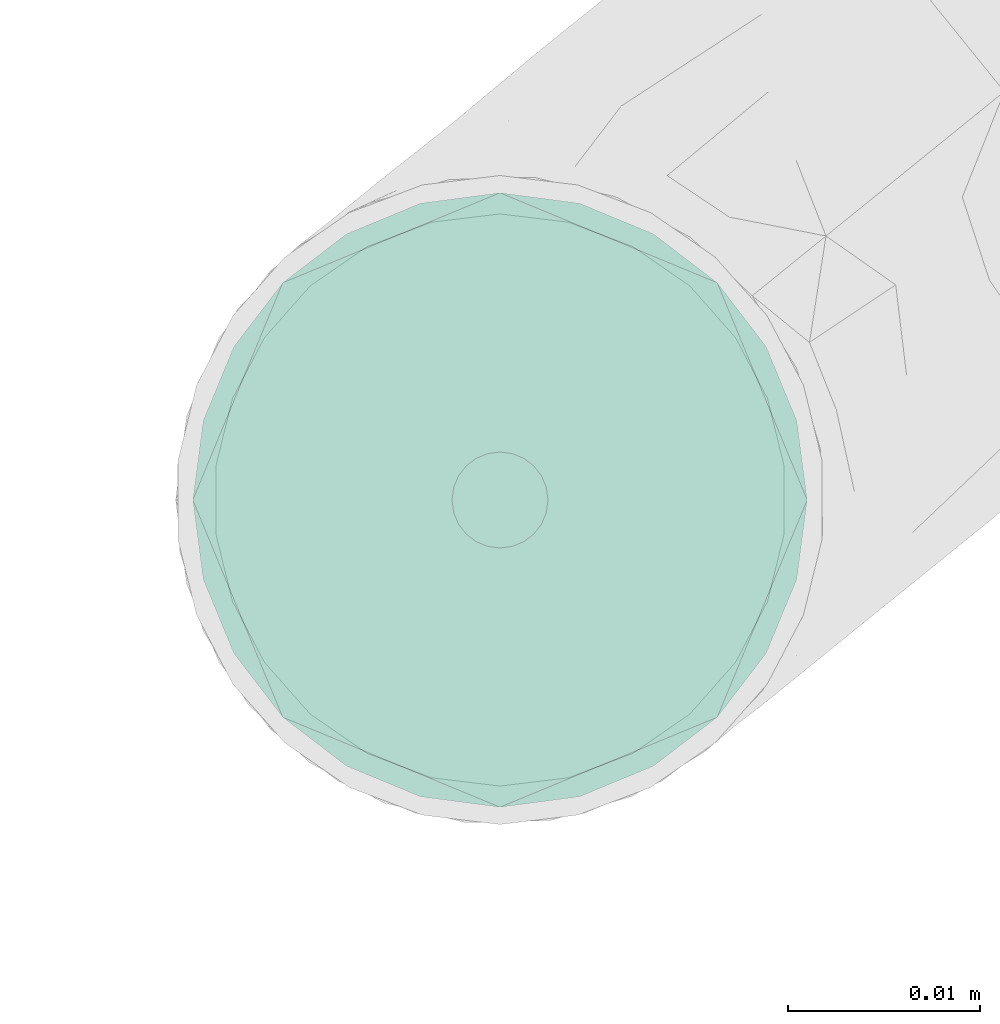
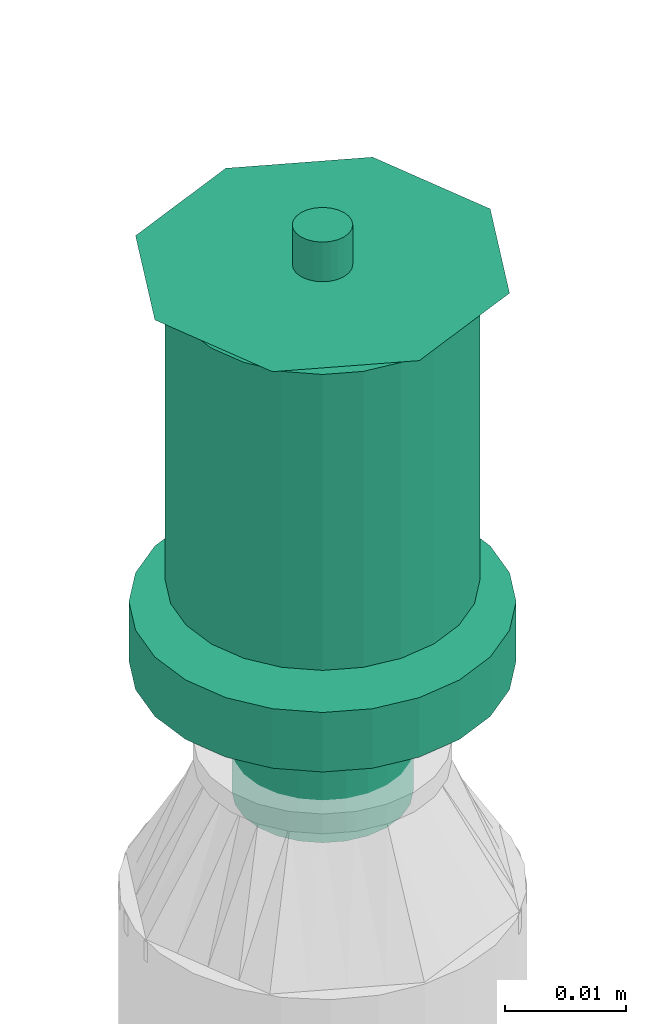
# One storey, part 83 of 94: 1 flow terminal.
"""IFC2X3 building model written with IfcOpenShell, lengths in millimetres."""

from ifc_helpers import new_model, entity, si_unit, converted_unit, derived_unit, direction, frame, origin_with_axes, place, context, subcontext, project, spatial, open_shell, surface_model, source, transform, mapped, type_object, element, save


model = new_model("IFC2X3")

# Units and contexts
model_context = context("Model", 3, precision=0.01, world=frame((0.0, 4.29681676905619e-09, 0.0)), true_north=direction((4.01073788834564e-13, 1.0)))
plan_context = context("Plan", 3, precision=0.01, world=frame((0.0, 4.29681676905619e-09, 0.0)), true_north=direction((4.01073788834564e-13, 1.0)))
body_context = subcontext(model_context, "Body", "Model", "MODEL_VIEW")
ifc_project = project(units=[converted_unit("PLANEANGLEUNIT", "DEGREE", entity("IfcPositiveLengthMeasure", 0.0174532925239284), si_unit("PLANEANGLEUNIT", "RADIAN"), dimensions=[0, 0, 0, 0, 0, 0, 0]), si_unit("AREAUNIT", "SQUARE_METRE"), si_unit("LENGTHUNIT", "METRE", prefix="MILLI"), si_unit("MASSUNIT", "GRAM", prefix="KILO"), si_unit("POWERUNIT", "WATT"), si_unit("PRESSUREUNIT", "PASCAL", prefix="KILO"), si_unit("FORCEUNIT", "NEWTON", prefix="KILO"), si_unit("ELECTRICVOLTAGEUNIT", "VOLT"), si_unit("ELECTRICCURRENTUNIT", "AMPERE"), si_unit("THERMODYNAMICTEMPERATUREUNIT", "DEGREE_CELSIUS"), si_unit("TIMEUNIT", "SECOND"), si_unit("VOLUMEUNIT", "CUBIC_METRE"), derived_unit("LINEARVELOCITYUNIT", [(si_unit("LENGTHUNIT", "METRE"), 1), (si_unit("TIMEUNIT", "SECOND"), -1)]), derived_unit("VOLUMETRICFLOWRATEUNIT", [(si_unit("VOLUMEUNIT", "CUBIC_METRE"), 1), (si_unit("TIMEUNIT", "SECOND"), -1)]), derived_unit("THERMALTRANSMITTANCEUNIT", [(si_unit("POWERUNIT", "WATT"), 1), (si_unit("THERMODYNAMICTEMPERATUREUNIT", "KELVIN"), -1), (si_unit("AREAUNIT", "SQUARE_METRE"), -1)]), derived_unit("SOUNDPRESSUREUNIT", [(si_unit("PRESSUREUNIT", "PASCAL"), 1)])], contexts=[model_context, plan_context])

# Site, building, storey
site_placement = place(None, frame((0.0, -4.29681676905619e-09, 0.0), z_axis=(0.0, 0.0, 1.0), x_axis=(1.0, 0.0, 0.0)))
site = spatial("IfcSite", under=ifc_project, at=site_placement, CompositionType="ELEMENT")
building_placement = place(site_placement, frame((0.0, 4.29681676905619e-09, 0.0), z_axis=(0.0, 0.0, 1.0), x_axis=(1.0, 0.0, 0.0)))
building = spatial("IfcBuilding", under=site, at=building_placement, Name="mc-building", CompositionType="ELEMENT")
storey_placement = place(building_placement, frame((0.0, 0.0, 210900.0), z_axis=(0.0, 0.0, 1.0), x_axis=(1.0, 0.0, 0.0)))
storey = spatial("IfcBuildingStorey", under=building, at=storey_placement, Name="Nivå F", CompositionType="ELEMENT", Elevation=210900.0)

# Flow terminal
fire_suppression_terminal_type = type_object("IfcFireSuppressionTerminalType", Name="68DGR-STD-STÅENDE", PredefinedType="NOTDEFINED")
shared_shape = source(origin_with_axes(), body_context, "Body", "SurfaceModel", [
    surface_model("IfcShellBasedSurfaceModel", [(3.36465, -12.55704, 51.0), (6.5, -11.25833, 51.0), (9.19239, -9.19239, 51.0), (12.55704, -3.36465, 51.0), (-11.25833, -6.5, 51.0), (11.25833, -6.5, 51.0), (-13.0, 0.0, 51.0), (0.0, -13.0, 51.0), (-6.5, -11.25833, 51.0), (-3.36465, -12.55704, 51.0), (-9.19239, -9.19239, 51.0), (-12.55704, -3.36465, 51.0), (13.0, 0.0, 51.0), (12.55704, 3.36465, 51.0), (11.25833, 6.5, 51.0), (9.19239, 9.19239, 51.0), (6.5, 11.25833, 51.0), (3.36465, 12.55704, 51.0), (0.0, 13.0, 51.0), (-3.36465, 12.55704, 51.0), (-12.55704, 3.36465, 51.0), (-9.19239, 9.19239, 51.0), (-11.25833, 6.5, 51.0), (-6.5, 11.25833, 51.0), (0.0, 13.0, 21.14766), (3.36465, 12.55704, 21.14766), (6.5, 11.25833, 21.14766), (-3.36465, 12.55704, 21.14766), (9.19239, 9.19239, 21.14766), (11.25833, 6.5, 21.14766), (12.55704, 3.36465, 21.14766), (-12.55704, 3.36465, 21.14766), (-11.25833, -6.5, 21.14766), (-9.19239, 9.19239, 21.14766), (-6.5, 11.25833, 21.14766), (-11.25833, 6.5, 21.14766), (-13.0, 0.0, 21.14766), (12.55704, -3.36465, 21.14766), (9.19239, -9.19239, 21.14766), (11.25833, -6.5, 21.14766), (6.5, -11.25833, 21.14766), (3.36465, -12.55704, 21.14766), (-6.5, -11.25833, 21.14766), (-9.19239, -9.19239, 21.14766), (-12.55704, -3.36465, 21.14766), (0.0, -13.0, 21.14766), (-3.36465, -12.55704, 21.14766), (13.0, 0.0, 21.14766), (7.24444, -1.94114, 0.1), (1.94114, -7.24444, 0.1), (3.75, -6.49519, 0.1), (5.3033, -5.3033, 0.1), (-5.3033, -5.3033, 0.1), (6.49519, -3.75, 0.1), (5.3033, 5.3033, 0.1), (0.0, -7.5, 0.1), (-3.75, -6.49519, 0.1), (-1.94114, -7.24444, 0.1), (-7.24444, -1.94114, 0.1), (-6.49519, -3.75, 0.1), (-7.24444, 1.94114, 0.1), (7.5, 0.0, 0.1), (6.49519, 3.75, 0.1), (-6.49519, 3.75, 0.1), (1.94114, 7.24444, 0.1), (0.0, 7.5, 0.1), (3.75, 6.49519, 0.1), (-7.5, 0.0, 0.1), (-5.3033, 5.3033, 0.1), (-1.94114, 7.24444, 0.1), (-3.75, 6.49519, 0.1), (7.24444, 1.94114, 0.1), (1.94114, 7.24444, -0.1), (-6.49519, 3.75, -0.1), (0.0, 7.5, -0.1), (5.3033, 5.3033, -0.1), (3.75, 6.49519, -0.1), (6.49519, 3.75, -0.1), (7.24444, 1.94114, -0.1), (-1.94114, 7.24444, -0.1), (-5.3033, 5.3033, -0.1), (-3.75, 6.49519, -0.1), (-7.24444, 1.94114, -0.1), (-7.24444, -1.94114, -0.1), (-7.5, 0.0, -0.1), (7.5, 0.0, -0.1), (7.24444, -1.94114, -0.1), (-5.3033, -5.3033, -0.1), (1.94114, -7.24444, -0.1), (6.49519, -3.75, -0.1), (5.3033, -5.3033, -0.1), (3.75, -6.49519, -0.1), (-6.49519, -3.75, -0.1), (-3.75, -6.49519, -0.1), (0.0, -7.5, -0.1), (-1.94114, -7.24444, -0.1), (0.0, -2.5, 51.0), (-2.5, 0.0, 51.0), (0.0, 2.5, 51.0), (2.5, 0.0, 51.0), (0.0, -16.0, 53.0), (11.31371, -11.31371, 53.0), (-11.31371, -11.31371, 53.0), (-16.0, 0.0, 53.0), (16.0, 0.0, 53.0), (11.31371, 11.31371, 53.0), (0.0, 16.0, 53.0), (-11.31371, 11.31371, 53.0), (1.25, -2.16506, 57.0), (0.0, -2.5, 57.0), (0.64705, -2.41481, 57.0), (2.41481, -0.64705, 57.0), (1.76777, -1.76777, 57.0), (-2.41481, -0.64705, 57.0), (-2.5, 0.0, 57.0), (2.16506, -1.25, 57.0), (-1.25, -2.16506, 57.0), (-0.64705, -2.41481, 57.0), (-1.76777, -1.76777, 57.0), (-2.16506, -1.25, 57.0), (2.5, 0.0, 57.0), (2.41481, 0.64705, 57.0), (2.16506, 1.25, 57.0), (1.76777, 1.76777, 57.0), (0.64705, 2.41481, 57.0), (1.25, 2.16506, 57.0), (-1.76777, 1.76777, 57.0), (0.0, 2.5, 57.0), (-2.16506, 1.25, 57.0), (-2.41481, 0.64705, 57.0), (-0.64705, 2.41481, 57.0), (-1.25, 2.16506, 57.0), (1.25, 2.16506, 51.0), (1.76777, 1.76777, 51.0), (1.15, 1.99186, 51.0), (0.59528, 2.22163, 51.0), (0.64705, 2.41481, 51.0), (0.0, 2.3, 51.0), (1.62635, 1.62635, 51.0), (2.41481, 0.64705, 51.0), (2.3, 0.0, 51.0), (2.22163, 0.59528, 51.0), (2.16506, 1.25, 51.0), (1.99186, 1.15, 51.0), (-0.59528, 2.22163, 51.0), (-0.64705, 2.41481, 51.0), (-1.15, 1.99186, 51.0), (-1.76777, 1.76777, 51.0), (-1.25, 2.16506, 51.0), (-1.62635, 1.62635, 51.0), (-1.99186, 1.15, 51.0), (-2.16506, 1.25, 51.0), (-2.22163, 0.59528, 51.0), (-2.41481, 0.64705, 51.0), (-2.3, 0.0, 51.0), (2.41481, -0.64705, 51.0), (2.22163, -0.59528, 51.0), (1.99186, -1.15, 51.0), (2.16506, -1.25, 51.0), (1.62635, -1.62635, 51.0), (1.76777, -1.76777, 51.0), (1.25, -2.16506, 51.0), (1.15, -1.99186, 51.0), (0.59528, -2.22163, 51.0), (0.64705, -2.41481, 51.0), (0.0, -2.3, 51.0), (-2.16506, -1.25, 51.0), (-1.99186, -1.15, 51.0), (-1.76777, -1.76777, 51.0), (-1.62635, -1.62635, 51.0), (-2.41481, -0.64705, 51.0), (-2.22163, -0.59528, 51.0), (-0.59528, -2.22163, 51.0), (-0.64705, -2.41481, 51.0), (-1.15, -1.99186, 51.0), (-1.25, -2.16506, 51.0), (1.62635, -1.62635, 56.8), (1.15, -1.99186, 56.8), (0.59528, -2.22163, 56.8), (0.0, -2.3, 56.8), (2.22163, 0.59528, 56.8), (1.99186, -1.15, 56.8), (2.22163, -0.59528, 56.8), (-0.59528, -2.22163, 56.8), (-1.15, -1.99186, 56.8), (-1.62635, -1.62635, 56.8), (-1.99186, -1.15, 56.8), (-2.22163, -0.59528, 56.8), (-1.99186, 1.15, 56.8), (2.3, 0.0, 56.8), (1.62635, 1.62635, 56.8), (1.99186, 1.15, 56.8), (1.15, 1.99186, 56.8), (0.0, 2.3, 56.8), (0.59528, 2.22163, 56.8), (-2.22163, 0.59528, 56.8), (-2.3, 0.0, 56.8), (-1.15, 1.99186, 56.8), (-0.59528, 2.22163, 56.8), (-1.62635, 1.62635, 56.8), (4.1411, -15.45481, 19.0), (8.0, -13.85641, 19.0), (11.31371, -11.31371, 19.0), (-8.0, -13.85641, 19.0), (15.45481, -4.1411, 19.0), (16.0, 0.0, 19.0), (13.85641, -8.0, 19.0), (0.0, -16.0, 19.0), (-4.1411, -15.45481, 19.0), (-13.85641, -8.0, 19.0), (-11.31371, -11.31371, 19.0), (-15.45481, -4.1411, 19.0), (15.45481, 4.1411, 19.0), (13.85641, 8.0, 19.0), (11.31371, 11.31371, 19.0), (-4.1411, 15.45481, 19.0), (8.0, 13.85641, 19.0), (4.1411, 15.45481, 19.0), (0.0, 16.0, 19.0), (-13.85641, 8.0, 19.0), (-15.45481, 4.1411, 19.0), (-16.0, 0.0, 19.0), (-11.31371, 11.31371, 19.0), (-8.0, 13.85641, 19.0), (0.0, 16.0, 13.0), (4.1411, 15.45481, 13.0), (8.0, 13.85641, 13.0), (-4.1411, 15.45481, 13.0), (11.31371, 11.31371, 13.0), (13.85641, 8.0, 13.0), (15.45481, 4.1411, 13.0), (-15.45481, -4.1411, 13.0), (-11.31371, 11.31371, 13.0), (-8.0, 13.85641, 13.0), (-13.85641, 8.0, 13.0), (-15.45481, 4.1411, 13.0), (-16.0, 0.0, 13.0), (4.1411, -15.45481, 13.0), (16.0, 0.0, 13.0), (15.45481, -4.1411, 13.0), (13.85641, -8.0, 13.0), (11.31371, -11.31371, 13.0), (8.0, -13.85641, 13.0), (-8.0, -13.85641, 13.0), (-13.85641, -8.0, 13.0), (-11.31371, -11.31371, 13.0), (0.0, -16.0, 13.0), (-4.1411, -15.45481, 13.0), (7.24444, -1.94114, 13.0), (1.94114, -7.24444, 13.0), (3.75, -6.49519, 13.0), (5.3033, -5.3033, 13.0), (-5.3033, -5.3033, 13.0), (6.49519, -3.75, 13.0), (5.3033, 5.3033, 13.0), (0.0, -7.5, 13.0), (-3.75, -6.49519, 13.0), (-1.94114, -7.24444, 13.0), (-7.24444, -1.94114, 13.0), (-6.49519, -3.75, 13.0), (-7.24444, 1.94114, 13.0), (7.5, 0.0, 13.0), (6.49519, 3.75, 13.0), (-6.49519, 3.75, 13.0), (1.94114, 7.24444, 13.0), (0.0, 7.5, 13.0), (3.75, 6.49519, 13.0), (-7.5, 0.0, 13.0), (-5.3033, 5.3033, 13.0), (-1.94114, 7.24444, 13.0), (-3.75, 6.49519, 13.0), (7.24444, 1.94114, 13.0), (3.75, 6.49519, 0.0), (5.3033, 5.3033, 0.0), (3.65, 6.32199, 0.0), (1.88938, 7.05126, 0.0), (0.0, 7.3, 0.0), (1.94114, 7.24444, 0.0), (0.0, 7.5, 0.0), (5.16188, 5.16188, 0.0), (7.24444, 1.94114, 0.0), (7.3, 0.0, 0.0), (7.05126, 1.88938, 0.0), (7.5, 0.0, 0.0), (6.49519, 3.75, 0.0), (6.32199, 3.65, 0.0), (-1.88938, 7.05126, 0.0), (-1.94114, 7.24444, 0.0), (-3.65, 6.32199, 0.0), (-5.3033, 5.3033, 0.0), (-3.75, 6.49519, 0.0), (-5.16188, 5.16188, 0.0), (-6.32199, 3.65, 0.0), (-6.49519, 3.75, 0.0), (-7.05126, 1.88938, 0.0), (-7.24444, 1.94114, 0.0), (-7.3, 0.0, 0.0), (-7.5, 0.0, 0.0), (7.24444, -1.94114, 0.0), (7.05126, -1.88938, 0.0), (6.32199, -3.65, 0.0), (6.49519, -3.75, 0.0), (5.16188, -5.16188, 0.0), (5.3033, -5.3033, 0.0), (3.75, -6.49519, 0.0), (3.65, -6.32199, 0.0), (1.88938, -7.05126, 0.0), (1.94114, -7.24444, 0.0), (0.0, -7.3, 0.0), (0.0, -7.5, 0.0), (-6.49519, -3.75, 0.0), (-6.32199, -3.65, 0.0), (-5.3033, -5.3033, 0.0), (-5.16188, -5.16188, 0.0), (-7.24444, -1.94114, 0.0), (-7.05126, -1.88938, 0.0), (-1.88938, -7.05126, 0.0), (-1.94114, -7.24444, 0.0), (-3.65, -6.32199, 0.0), (-3.75, -6.49519, 0.0), (1.88938, -7.05126, 12.8), (0.0, -7.3, 12.8), (3.65, -6.32199, 12.8), (5.16188, -5.16188, 12.8), (6.32199, -3.65, 12.8), (7.05126, 1.88938, 12.8), (7.05126, -1.88938, 12.8), (-5.16188, -5.16188, 12.8), (-1.88938, -7.05126, 12.8), (-3.65, -6.32199, 12.8), (-6.32199, -3.65, 12.8), (-7.05126, -1.88938, 12.8), (0.0, 7.3, 12.8), (7.3, 0.0, 12.8), (6.32199, 3.65, 12.8), (5.16188, 5.16188, 12.8), (3.65, 6.32199, 12.8), (1.88938, 7.05126, 12.8), (-6.32199, 3.65, 12.8), (-7.05126, 1.88938, 12.8), (-7.3, 0.0, 12.8), (-3.65, 6.32199, 12.8), (-1.88938, 7.05126, 12.8), (-5.16188, 5.16188, 12.8)], [open_shell([[[0, 1, 2]], [[0, 2, 3]], [[0, 3, 4]], [[3, 2, 5]], [[6, 4, 3]], [[7, 8, 9]], [[7, 0, 8]], [[8, 4, 10]], [[0, 4, 8]], [[4, 6, 11]], [[6, 3, 12]], [[13, 14, 15]], [[6, 13, 15]], [[16, 17, 18]], [[15, 16, 19]], [[18, 19, 16]], [[20, 21, 22]], [[20, 6, 15]], [[21, 19, 23]], [[19, 21, 20]], [[15, 19, 20]], [[13, 6, 12]], [[24, 25, 26]], [[27, 24, 26]], [[28, 29, 30]], [[26, 28, 31]], [[28, 32, 31]], [[27, 33, 34]], [[33, 27, 31]], [[33, 31, 35]], [[27, 26, 31]], [[31, 32, 36]], [[32, 28, 30]], [[32, 30, 37]], [[38, 37, 39]], [[38, 40, 41]], [[38, 41, 37]], [[32, 37, 41]], [[32, 42, 43]], [[44, 36, 32]], [[42, 45, 46]], [[42, 32, 41]], [[45, 42, 41]], [[30, 47, 37]], [[4, 32, 43]], [[8, 42, 46]], [[43, 42, 10]], [[9, 46, 45]], [[36, 11, 6]], [[11, 36, 44]], [[11, 44, 4]], [[44, 32, 4]], [[43, 10, 4]], [[8, 10, 42]], [[46, 9, 8]], [[45, 7, 9]], [[0, 41, 40]], [[38, 1, 40]], [[5, 39, 37]], [[38, 39, 2]], [[3, 37, 47]], [[41, 0, 7]], [[40, 1, 0]], [[38, 2, 1]], [[39, 5, 2]], [[3, 5, 37]], [[47, 12, 3]], [[41, 7, 45]], [[30, 13, 47]], [[29, 14, 30]], [[25, 24, 17]], [[15, 29, 28]], [[30, 14, 13]], [[13, 12, 47]], [[16, 26, 17]], [[16, 15, 28]], [[26, 25, 17]], [[15, 14, 29]], [[28, 26, 16]], [[24, 18, 17]], [[19, 27, 34]], [[33, 23, 34]], [[22, 35, 31]], [[33, 35, 21]], [[20, 31, 36]], [[27, 19, 18]], [[34, 23, 19]], [[33, 21, 23]], [[35, 22, 21]], [[20, 22, 31]], [[36, 6, 20]], [[27, 18, 24]], [[48, 49, 50]], [[48, 50, 51]], [[49, 48, 52]], [[48, 51, 53]], [[54, 52, 48]], [[55, 56, 57]], [[56, 55, 52]], [[52, 58, 59]], [[52, 55, 49]], [[52, 60, 58]], [[54, 48, 61]], [[62, 54, 61]], [[54, 63, 52]], [[64, 65, 54]], [[64, 54, 66]], [[63, 54, 65]], [[63, 60, 52]], [[67, 58, 60]], [[68, 69, 70]], [[69, 68, 63]], [[69, 63, 65]], [[71, 62, 61]], [[72, 73, 74]], [[75, 72, 76]], [[75, 77, 78]], [[72, 75, 73]], [[78, 73, 75]], [[79, 80, 81]], [[80, 79, 73]], [[74, 73, 79]], [[78, 82, 73]], [[82, 83, 84]], [[82, 78, 85]], [[86, 87, 85]], [[88, 86, 89]], [[90, 91, 88]], [[90, 88, 89]], [[87, 86, 88]], [[83, 87, 92]], [[83, 85, 87]], [[93, 94, 95]], [[94, 93, 87]], [[88, 94, 87]], [[85, 83, 82]], [[83, 58, 84]], [[92, 59, 83]], [[56, 87, 93]], [[92, 87, 52]], [[57, 93, 95]], [[83, 59, 58]], [[58, 67, 84]], [[57, 56, 93]], [[52, 87, 56]], [[52, 59, 92]], [[55, 57, 95]], [[95, 94, 55]], [[88, 49, 94]], [[91, 50, 88]], [[53, 90, 89]], [[91, 90, 51]], [[48, 89, 86]], [[91, 51, 50]], [[50, 49, 88]], [[61, 48, 86]], [[53, 89, 48]], [[53, 51, 90]], [[85, 61, 86]], [[94, 49, 55]], [[78, 71, 85]], [[77, 62, 78]], [[66, 75, 76]], [[77, 75, 54]], [[64, 76, 72]], [[78, 62, 71]], [[71, 61, 85]], [[64, 66, 76]], [[54, 75, 66]], [[54, 62, 77]], [[65, 64, 72]], [[72, 74, 65]], [[79, 69, 74]], [[81, 70, 79]], [[63, 80, 73]], [[81, 80, 68]], [[60, 73, 82]], [[81, 68, 70]], [[70, 69, 79]], [[67, 60, 82]], [[63, 73, 60]], [[63, 68, 80]], [[84, 67, 82]], [[74, 69, 65]], [[96, 97, 98]], [[98, 99, 96]], [[100, 101, 102]], [[103, 102, 101]], [[101, 104, 103]], [[104, 105, 106]], [[107, 103, 106]], [[106, 103, 104]], [[99, 98, 105]], [[105, 104, 99]], [[98, 106, 105]], [[98, 107, 106]], [[107, 98, 97]], [[103, 107, 97]], [[97, 96, 102]], [[102, 103, 97]], [[96, 100, 102]], [[96, 101, 100]], [[101, 96, 99]], [[104, 101, 99]], [[108, 109, 110]], [[111, 108, 112]], [[113, 108, 114]], [[111, 112, 115]], [[108, 111, 114]], [[109, 116, 117]], [[116, 109, 118]], [[118, 113, 119]], [[118, 109, 108]], [[108, 113, 118]], [[111, 120, 114]], [[121, 122, 123]], [[114, 121, 123]], [[114, 123, 124]], [[124, 123, 125]], [[126, 124, 127]], [[124, 128, 129]], [[129, 114, 124]], [[126, 130, 131]], [[128, 124, 126]], [[130, 126, 127]], [[121, 114, 120]], [[132, 133, 134]], [[132, 134, 135]], [[136, 135, 137]], [[135, 136, 132]], [[136, 137, 98]], [[134, 133, 138]], [[139, 140, 141]], [[140, 139, 99]], [[139, 141, 142]], [[138, 142, 143]], [[142, 138, 133]], [[143, 142, 141]], [[98, 144, 145]], [[98, 137, 144]], [[145, 144, 146]], [[147, 148, 149]], [[146, 148, 145]], [[149, 148, 146]], [[150, 151, 147]], [[151, 150, 152]], [[150, 147, 149]], [[153, 152, 154]], [[152, 153, 151]], [[153, 154, 97]], [[99, 155, 156]], [[156, 155, 157]], [[157, 158, 159]], [[158, 157, 155]], [[159, 158, 160]], [[160, 161, 162]], [[162, 161, 163]], [[163, 164, 165]], [[164, 163, 161]], [[165, 164, 96]], [[162, 159, 160]], [[166, 167, 168]], [[168, 167, 169]], [[167, 166, 170]], [[97, 171, 170]], [[170, 171, 167]], [[97, 154, 171]], [[172, 96, 173]], [[172, 173, 174]], [[169, 175, 168]], [[175, 169, 174]], [[175, 174, 173]], [[165, 96, 172]], [[156, 140, 99]], [[170, 113, 97]], [[166, 119, 170]], [[116, 168, 175]], [[166, 168, 118]], [[117, 175, 173]], [[170, 119, 113]], [[113, 114, 97]], [[117, 116, 175]], [[118, 168, 116]], [[118, 119, 166]], [[109, 117, 173]], [[173, 96, 109]], [[164, 110, 96]], [[161, 108, 164]], [[115, 160, 158]], [[161, 160, 112]], [[111, 158, 155]], [[161, 112, 108]], [[108, 110, 164]], [[120, 111, 155]], [[115, 158, 111]], [[115, 112, 160]], [[99, 120, 155]], [[96, 110, 109]], [[139, 121, 99]], [[142, 122, 139]], [[125, 133, 132]], [[142, 133, 123]], [[124, 132, 136]], [[139, 122, 121]], [[121, 120, 99]], [[124, 125, 132]], [[123, 133, 125]], [[123, 122, 142]], [[127, 124, 136]], [[136, 98, 127]], [[145, 130, 98]], [[148, 131, 145]], [[128, 147, 151]], [[148, 147, 126]], [[129, 151, 153]], [[148, 126, 131]], [[131, 130, 145]], [[114, 129, 153]], [[128, 151, 129]], [[128, 126, 147]], [[97, 114, 153]], [[98, 130, 127]], [[176, 177, 178]], [[176, 178, 179]], [[180, 176, 179]], [[181, 176, 182]], [[180, 182, 176]], [[183, 184, 179]], [[185, 179, 184]], [[186, 187, 185]], [[185, 187, 188]], [[179, 185, 188]], [[189, 182, 180]], [[190, 191, 180]], [[192, 190, 180]], [[193, 194, 192]], [[180, 193, 192]], [[188, 193, 180]], [[195, 188, 196]], [[196, 188, 187]], [[197, 198, 199]], [[188, 199, 198]], [[188, 198, 193]], [[180, 179, 188]], [[154, 187, 171]], [[171, 186, 167]], [[174, 169, 184]], [[185, 169, 167]], [[172, 174, 183]], [[187, 186, 171]], [[154, 196, 187]], [[174, 184, 183]], [[184, 169, 185]], [[167, 186, 185]], [[172, 183, 179]], [[179, 165, 172]], [[165, 178, 163]], [[163, 177, 162]], [[157, 159, 181]], [[176, 159, 162]], [[156, 157, 182]], [[177, 176, 162]], [[163, 178, 177]], [[156, 182, 189]], [[182, 157, 181]], [[159, 176, 181]], [[156, 189, 140]], [[179, 178, 165]], [[140, 180, 141]], [[141, 191, 143]], [[134, 138, 192]], [[190, 138, 143]], [[135, 134, 194]], [[180, 191, 141]], [[140, 189, 180]], [[134, 192, 194]], [[192, 138, 190]], [[143, 191, 190]], [[135, 194, 193]], [[193, 137, 135]], [[137, 198, 144]], [[144, 197, 146]], [[150, 149, 188]], [[199, 149, 146]], [[152, 150, 195]], [[197, 199, 146]], [[144, 198, 197]], [[152, 195, 196]], [[195, 150, 188]], [[149, 199, 188]], [[152, 196, 154]], [[193, 198, 137]], [[200, 201, 202]], [[203, 200, 202]], [[204, 205, 202]], [[204, 202, 206]], [[203, 202, 205]], [[207, 203, 208]], [[207, 200, 203]], [[203, 209, 210]], [[209, 203, 211]], [[205, 211, 203]], [[205, 212, 211]], [[212, 213, 214]], [[215, 212, 214]], [[216, 217, 218]], [[214, 216, 215]], [[218, 215, 216]], [[211, 219, 220]], [[221, 211, 220]], [[222, 215, 223]], [[215, 222, 219]], [[219, 211, 215]], [[211, 212, 215]], [[224, 225, 226]], [[227, 224, 226]], [[228, 229, 230]], [[227, 226, 228]], [[227, 228, 231]], [[227, 232, 233]], [[232, 227, 234]], [[234, 231, 235]], [[231, 234, 227]], [[235, 231, 236]], [[228, 230, 231]], [[237, 238, 239]], [[237, 239, 240]], [[241, 242, 237]], [[241, 237, 240]], [[238, 237, 243]], [[244, 243, 245]], [[243, 244, 231]], [[243, 246, 247]], [[243, 231, 238]], [[237, 246, 243]], [[238, 231, 230]], [[231, 211, 236]], [[244, 209, 231]], [[203, 245, 243]], [[244, 245, 210]], [[208, 243, 247]], [[231, 209, 211]], [[211, 221, 236]], [[208, 203, 243]], [[210, 245, 203]], [[210, 209, 244]], [[207, 208, 247]], [[247, 246, 207]], [[237, 200, 246]], [[242, 201, 237]], [[206, 241, 240]], [[242, 241, 202]], [[204, 240, 239]], [[242, 202, 201]], [[201, 200, 237]], [[205, 204, 239]], [[206, 240, 204]], [[206, 202, 241]], [[238, 205, 239]], [[246, 200, 207]], [[230, 212, 238]], [[229, 213, 230]], [[216, 228, 226]], [[229, 228, 214]], [[217, 226, 225]], [[230, 213, 212]], [[212, 205, 238]], [[217, 216, 226]], [[214, 228, 216]], [[214, 213, 229]], [[218, 217, 225]], [[225, 224, 218]], [[227, 215, 224]], [[233, 223, 227]], [[219, 232, 234]], [[233, 232, 222]], [[220, 234, 235]], [[233, 222, 223]], [[223, 215, 227]], [[221, 220, 235]], [[219, 234, 220]], [[219, 222, 232]], [[236, 221, 235]], [[224, 215, 218]], [[248, 249, 250]], [[248, 250, 251]], [[249, 248, 252]], [[248, 251, 253]], [[254, 252, 248]], [[255, 256, 257]], [[256, 255, 252]], [[252, 258, 259]], [[252, 255, 249]], [[252, 260, 258]], [[254, 248, 261]], [[262, 254, 261]], [[254, 263, 252]], [[264, 265, 254]], [[264, 254, 266]], [[263, 254, 265]], [[263, 260, 252]], [[267, 258, 260]], [[268, 269, 270]], [[269, 268, 263]], [[269, 263, 265]], [[271, 262, 261]], [[272, 273, 274]], [[272, 274, 275]], [[276, 277, 275]], [[277, 276, 278]], [[275, 277, 272]], [[274, 273, 279]], [[280, 281, 282]], [[281, 280, 283]], [[280, 282, 284]], [[279, 284, 285]], [[284, 279, 273]], [[285, 284, 282]], [[278, 286, 287]], [[287, 286, 288]], [[289, 290, 291]], [[288, 290, 287]], [[288, 291, 290]], [[278, 276, 286]], [[292, 293, 289]], [[293, 292, 294]], [[292, 289, 291]], [[295, 294, 296]], [[294, 295, 293]], [[295, 296, 297]], [[283, 298, 299]], [[299, 298, 300]], [[300, 301, 302]], [[301, 300, 298]], [[302, 301, 303]], [[303, 304, 305]], [[305, 304, 306]], [[306, 307, 308]], [[307, 306, 304]], [[308, 307, 309]], [[305, 302, 303]], [[310, 311, 312]], [[312, 311, 313]], [[311, 310, 314]], [[297, 315, 314]], [[314, 315, 311]], [[297, 296, 315]], [[316, 309, 317]], [[316, 317, 318]], [[313, 319, 312]], [[313, 318, 319]], [[319, 318, 317]], [[308, 309, 316]], [[299, 281, 283]], [[314, 258, 297]], [[310, 259, 314]], [[256, 312, 319]], [[310, 312, 252]], [[257, 319, 317]], [[314, 259, 258]], [[258, 267, 297]], [[257, 256, 319]], [[252, 312, 256]], [[252, 259, 310]], [[255, 257, 317]], [[317, 309, 255]], [[307, 249, 309]], [[304, 250, 307]], [[253, 303, 301]], [[304, 303, 251]], [[248, 301, 298]], [[304, 251, 250]], [[250, 249, 307]], [[261, 248, 298]], [[253, 301, 248]], [[253, 251, 303]], [[283, 261, 298]], [[309, 249, 255]], [[280, 271, 283]], [[284, 262, 280]], [[266, 273, 272]], [[284, 273, 254]], [[264, 272, 277]], [[280, 262, 271]], [[271, 261, 283]], [[264, 266, 272]], [[254, 273, 266]], [[254, 262, 284]], [[265, 264, 277]], [[277, 278, 265]], [[287, 269, 278]], [[290, 270, 287]], [[263, 289, 293]], [[290, 289, 268]], [[260, 293, 295]], [[290, 268, 270]], [[270, 269, 287]], [[267, 260, 295]], [[263, 293, 260]], [[263, 268, 289]], [[297, 267, 295]], [[278, 269, 265]], [[320, 321, 322]], [[323, 322, 324]], [[325, 326, 322]], [[324, 322, 326]], [[322, 327, 325]], [[328, 329, 321]], [[327, 321, 329]], [[330, 331, 327]], [[322, 321, 327]], [[331, 332, 327]], [[326, 325, 333]], [[334, 325, 332]], [[335, 334, 336]], [[332, 337, 336]], [[334, 332, 336]], [[331, 338, 332]], [[339, 338, 340]], [[340, 338, 331]], [[341, 342, 343]], [[332, 338, 343]], [[332, 343, 342]], [[332, 325, 327]], [[296, 331, 315]], [[315, 330, 311]], [[318, 313, 329]], [[327, 313, 311]], [[316, 318, 328]], [[331, 330, 315]], [[296, 340, 331]], [[318, 329, 328]], [[329, 313, 327]], [[311, 330, 327]], [[316, 328, 321]], [[321, 308, 316]], [[308, 320, 306]], [[306, 322, 305]], [[300, 302, 324]], [[323, 302, 305]], [[299, 300, 326]], [[322, 323, 305]], [[306, 320, 322]], [[299, 326, 333]], [[326, 300, 324]], [[302, 323, 324]], [[299, 333, 281]], [[321, 320, 308]], [[281, 325, 282]], [[282, 334, 285]], [[274, 279, 336]], [[335, 279, 285]], [[275, 274, 337]], [[325, 334, 282]], [[281, 333, 325]], [[274, 336, 337]], [[336, 279, 335]], [[285, 334, 335]], [[275, 337, 332]], [[332, 276, 275]], [[276, 342, 286]], [[286, 341, 288]], [[292, 291, 338]], [[343, 291, 288]], [[294, 292, 339]], [[341, 343, 288]], [[286, 342, 341]], [[294, 339, 340]], [[339, 292, 338]], [[291, 343, 338]], [[294, 340, 296]], [[332, 342, 276]]])]),
])
flow_terminal_placement = place(storey_placement, frame((724295.62051, 443560.15199, 3752.0), z_axis=(0.0, 0.0, 1.0), x_axis=(1.0, 0.0, 0.0)))
element("IfcFlowTerminal", 1, at=flow_terminal_placement, inside=storey, type_object=fire_suppression_terminal_type, Name="68DGR-STD-STÅENDE", context=body_context, shape_type="MappedRepresentation", body=[
    mapped(shared_shape, transform((0.0, 0.0, 0.0), scale=1.0)),
])

save(model, "model.ifc")
